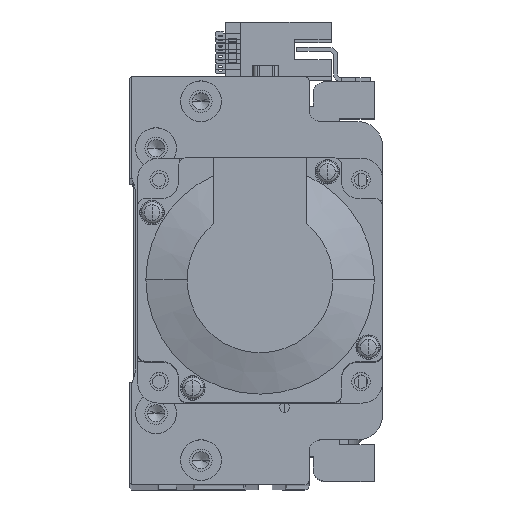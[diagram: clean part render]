
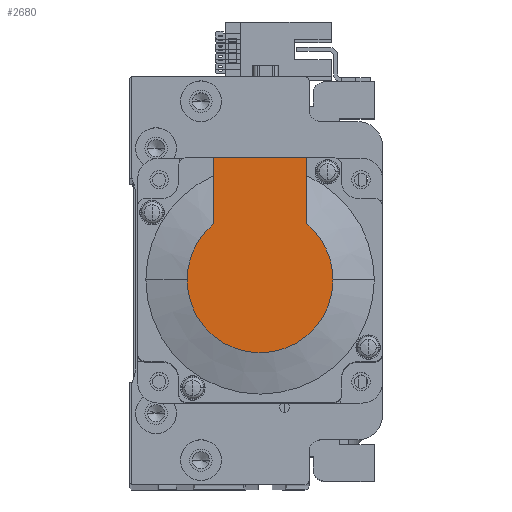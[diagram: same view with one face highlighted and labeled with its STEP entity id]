
A CAD part, top view. The second image highlights one B-rep face of the part: STEP entity #2680.
In plain terms, the highlighted planar face has unit normal (0, 0, 1) as drawn and (-1, 0, 0) by its records, which use the part's own axes.
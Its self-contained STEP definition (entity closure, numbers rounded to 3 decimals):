
#272 = CARTESIAN_POINT ( 'NONE',  ( -118.5, 0., 0. ) ) ;
#1242 = VERTEX_POINT ( 'NONE', #1683 ) ;
#1683 = CARTESIAN_POINT ( 'NONE',  ( -118.5, 0., 17.881 ) ) ;
#2496 = ORIENTED_EDGE ( 'NONE', *, *, #18405, .T. ) ;
#2680 = ADVANCED_FACE ( 'NONE', ( #46633 ), #52166, .T. ) ;
#3158 = DIRECTION ( 'NONE',  ( 0., 0., -1. ) ) ;
#4481 = DIRECTION ( 'NONE',  ( 0., 0., -1. ) ) ;
#4866 = VECTOR ( 'NONE', #8948, 1000. ) ;
#5968 = LINE ( 'NONE', #10431, #47540 ) ;
#5991 = EDGE_CURVE ( 'NONE', #9945, #9064, #5968, .T. ) ;
#8650 = CARTESIAN_POINT ( 'NONE',  ( -118.5, 0., 11.45 ) ) ;
#8948 = DIRECTION ( 'NONE',  ( 0., 0., 1. ) ) ;
#9064 = VERTEX_POINT ( 'NONE', #51733 ) ;
#9374 = DIRECTION ( 'NONE',  ( -1., 0., 0. ) ) ;
#9945 = VERTEX_POINT ( 'NONE', #20127 ) ;
#10276 = ORIENTED_EDGE ( 'NONE', *, *, #46052, .T. ) ;
#10431 = CARTESIAN_POINT ( 'NONE',  ( -118.5, -8.941, -11.45 ) ) ;
#10966 = AXIS2_PLACEMENT_3D ( 'NONE', #52816, #27992, #3158 ) ;
#11262 = ORIENTED_EDGE ( 'NONE', *, *, #24151, .F. ) ;
#12885 = DIRECTION ( 'NONE',  ( 0., -1., 0. ) ) ;
#13292 = ORIENTED_EDGE ( 'NONE', *, *, #5991, .T. ) ;
#14945 = AXIS2_PLACEMENT_3D ( 'NONE', #15043, #44043, #19192 ) ;
#15043 = CARTESIAN_POINT ( 'NONE',  ( -118.5, -8.941, 0. ) ) ;
#17908 = ORIENTED_EDGE ( 'NONE', *, *, #36186, .F. ) ;
#18296 = LINE ( 'NONE', #8650, #50102 ) ;
#18405 = EDGE_CURVE ( 'NONE', #1242, #33357, #21854, .T. ) ;
#19192 = DIRECTION ( 'NONE',  ( 0., 0., 1. ) ) ;
#19286 = CARTESIAN_POINT ( 'NONE',  ( -118.5, 30., 11.45 ) ) ;
#20127 = CARTESIAN_POINT ( 'NONE',  ( -118.5, 30., -11.45 ) ) ;
#21854 = CIRCLE ( 'NONE', #34216, 17.881 ) ;
#22217 = CIRCLE ( 'NONE', #10966, 17.881 ) ;
#24151 = EDGE_CURVE ( 'NONE', #9945, #39904, #28407, .T. ) ;
#25991 = AXIS2_PLACEMENT_3D ( 'NONE', #272, #29324, #4481 ) ;
#27992 = DIRECTION ( 'NONE',  ( -1., 0., 0. ) ) ;
#28407 = LINE ( 'NONE', #33835, #4866 ) ;
#29324 = DIRECTION ( 'NONE',  ( -1., 0., 0. ) ) ;
#32497 = CARTESIAN_POINT ( 'NONE',  ( -118.5, 0., -17.881 ) ) ;
#32802 = EDGE_LOOP ( 'NONE', ( #13292, #51562, #10276, #2496, #17908, #11262 ) ) ;
#33148 = VERTEX_POINT ( 'NONE', #32497 ) ;
#33357 = VERTEX_POINT ( 'NONE', #33413 ) ;
#33413 = CARTESIAN_POINT ( 'NONE',  ( -118.5, 13.735, 11.45 ) ) ;
#33835 = CARTESIAN_POINT ( 'NONE',  ( -118.5, 30., 25. ) ) ;
#34216 = AXIS2_PLACEMENT_3D ( 'NONE', #34269, #9374, #38433 ) ;
#34269 = CARTESIAN_POINT ( 'NONE',  ( -118.5, 0., 0. ) ) ;
#36186 = EDGE_CURVE ( 'NONE', #39904, #33357, #18296, .T. ) ;
#38433 = DIRECTION ( 'NONE',  ( 0., 0., -1. ) ) ;
#39496 = EDGE_CURVE ( 'NONE', #9064, #33148, #22217, .T. ) ;
#39904 = VERTEX_POINT ( 'NONE', #19286 ) ;
#44043 = DIRECTION ( 'NONE',  ( -1., 0., 0. ) ) ;
#44510 = CIRCLE ( 'NONE', #25991, 17.881 ) ;
#46052 = EDGE_CURVE ( 'NONE', #33148, #1242, #44510, .T. ) ;
#46633 = FACE_OUTER_BOUND ( 'NONE', #32802, .T. ) ;
#47540 = VECTOR ( 'NONE', #47816, 1000. ) ;
#47816 = DIRECTION ( 'NONE',  ( 0., -1., 0. ) ) ;
#50102 = VECTOR ( 'NONE', #12885, 1000. ) ;
#51562 = ORIENTED_EDGE ( 'NONE', *, *, #39496, .T. ) ;
#51733 = CARTESIAN_POINT ( 'NONE',  ( -118.5, 13.735, -11.45 ) ) ;
#52166 = PLANE ( 'NONE',  #14945 ) ;
#52816 = CARTESIAN_POINT ( 'NONE',  ( -118.5, 0., 0. ) ) ;
